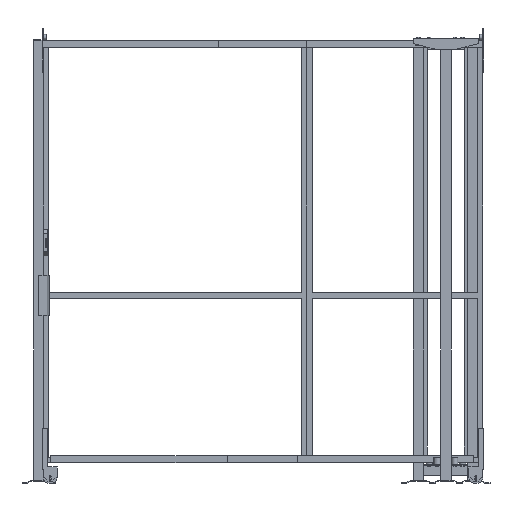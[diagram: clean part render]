
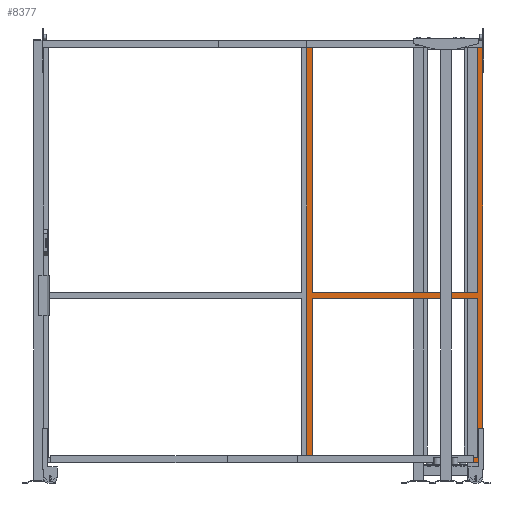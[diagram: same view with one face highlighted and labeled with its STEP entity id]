
A CAD part, front view. The second image highlights one B-rep face of the part: STEP entity #8377.
In plain terms, the highlighted planar face has unit normal (0, -1, 0).
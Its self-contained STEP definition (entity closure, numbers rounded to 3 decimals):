
#983=FACE_BOUND('',#1442,.T.);
#984=FACE_BOUND('',#1443,.T.);
#1030=FACE_OUTER_BOUND('',#1441,.T.);
#1441=EDGE_LOOP('',(#5981,#5982,#5983,#5984));
#1442=EDGE_LOOP('',(#5985,#5986,#5987,#5988));
#1443=EDGE_LOOP('',(#5989,#5990,#5991,#5992));
#1894=LINE('',#11662,#3024);
#1900=LINE('',#11674,#3030);
#1901=LINE('',#11677,#3031);
#1904=LINE('',#11684,#3034);
#1905=LINE('',#11686,#3035);
#1906=LINE('',#11688,#3036);
#1907=LINE('',#11689,#3037);
#1908=LINE('',#11691,#3038);
#1909=LINE('',#11693,#3039);
#1910=LINE('',#11694,#3040);
#1911=LINE('',#11696,#3041);
#1912=LINE('',#11697,#3042);
#3024=VECTOR('',#9398,1.);
#3030=VECTOR('',#9406,1.);
#3031=VECTOR('',#9409,1.);
#3034=VECTOR('',#9414,1.);
#3035=VECTOR('',#9415,1.);
#3036=VECTOR('',#9416,1.);
#3037=VECTOR('',#9417,1.);
#3038=VECTOR('',#9418,1.);
#3039=VECTOR('',#9419,1.);
#3040=VECTOR('',#9420,1.);
#3041=VECTOR('',#9421,1.);
#3042=VECTOR('',#9422,1.);
#4153=VERTEX_POINT('',#11658);
#4155=VERTEX_POINT('',#11661);
#4158=VERTEX_POINT('',#11668);
#4160=VERTEX_POINT('',#11672);
#4161=VERTEX_POINT('',#11676);
#4163=VERTEX_POINT('',#11682);
#4164=VERTEX_POINT('',#11683);
#4165=VERTEX_POINT('',#11685);
#4166=VERTEX_POINT('',#11687);
#4167=VERTEX_POINT('',#11690);
#4168=VERTEX_POINT('',#11692);
#4169=VERTEX_POINT('',#11695);
#4904=EDGE_CURVE('',#4153,#4155,#1894,.T.);
#4910=EDGE_CURVE('',#4160,#4158,#1900,.T.);
#4911=EDGE_CURVE('',#4161,#4158,#1901,.T.);
#4914=EDGE_CURVE('',#4163,#4164,#1904,.T.);
#4915=EDGE_CURVE('',#4165,#4164,#1905,.T.);
#4916=EDGE_CURVE('',#4166,#4165,#1906,.T.);
#4917=EDGE_CURVE('',#4163,#4166,#1907,.T.);
#4918=EDGE_CURVE('',#4153,#4167,#1908,.T.);
#4919=EDGE_CURVE('',#4167,#4168,#1909,.T.);
#4920=EDGE_CURVE('',#4168,#4155,#1910,.T.);
#4921=EDGE_CURVE('',#4160,#4169,#1911,.T.);
#4922=EDGE_CURVE('',#4169,#4161,#1912,.T.);
#5981=ORIENTED_EDGE('',*,*,#4914,.T.);
#5982=ORIENTED_EDGE('',*,*,#4915,.F.);
#5983=ORIENTED_EDGE('',*,*,#4916,.F.);
#5984=ORIENTED_EDGE('',*,*,#4917,.F.);
#5985=ORIENTED_EDGE('',*,*,#4918,.T.);
#5986=ORIENTED_EDGE('',*,*,#4919,.T.);
#5987=ORIENTED_EDGE('',*,*,#4920,.T.);
#5988=ORIENTED_EDGE('',*,*,#4904,.F.);
#5989=ORIENTED_EDGE('',*,*,#4910,.F.);
#5990=ORIENTED_EDGE('',*,*,#4921,.T.);
#5991=ORIENTED_EDGE('',*,*,#4922,.T.);
#5992=ORIENTED_EDGE('',*,*,#4911,.T.);
#8006=PLANE('',#8829);
#8377=ADVANCED_FACE('',(#1030,#983,#984),#8006,.F.);
#8829=AXIS2_PLACEMENT_3D('',#11681,#9412,#9413);
#9398=DIRECTION('',(1.,0.,0.));
#9406=DIRECTION('',(-1.,0.,0.));
#9409=DIRECTION('',(0.,0.,1.));
#9412=DIRECTION('center_axis',(0.,1.,0.));
#9413=DIRECTION('ref_axis',(0.,0.,1.));
#9414=DIRECTION('',(0.,0.,-1.));
#9415=DIRECTION('',(-1.,0.,0.));
#9416=DIRECTION('',(0.,0.,-1.));
#9417=DIRECTION('',(1.,0.,0.));
#9418=DIRECTION('',(0.,0.,1.));
#9419=DIRECTION('',(1.,0.,0.));
#9420=DIRECTION('',(0.,0.,-1.));
#9421=DIRECTION('',(0.,0.,-1.));
#9422=DIRECTION('',(-1.,0.,0.));
#11658=CARTESIAN_POINT('',(30.,0.,965.));
#11661=CARTESIAN_POINT('',(970.,0.,965.));
#11662=CARTESIAN_POINT('',(500.,0.,965.));
#11668=CARTESIAN_POINT('',(30.,0.,935.));
#11672=CARTESIAN_POINT('',(970.,0.,935.));
#11674=CARTESIAN_POINT('',(500.,0.,935.));
#11676=CARTESIAN_POINT('',(30.,0.,30.));
#11677=CARTESIAN_POINT('',(30.,0.,1200.));
#11681=CARTESIAN_POINT('Origin',(500.,0.,1200.));
#11682=CARTESIAN_POINT('',(0.,0.,2400.));
#11683=CARTESIAN_POINT('',(0.,0.,0.));
#11684=CARTESIAN_POINT('',(0.,0.,1200.));
#11685=CARTESIAN_POINT('',(1000.,0.,0.));
#11686=CARTESIAN_POINT('',(500.,0.,0.));
#11687=CARTESIAN_POINT('',(1000.,0.,2400.));
#11688=CARTESIAN_POINT('',(1000.,0.,1200.));
#11689=CARTESIAN_POINT('',(500.,0.,2400.));
#11690=CARTESIAN_POINT('',(30.,0.,2370.));
#11691=CARTESIAN_POINT('',(30.,0.,1200.));
#11692=CARTESIAN_POINT('',(970.,0.,2370.));
#11693=CARTESIAN_POINT('',(500.,0.,2370.));
#11694=CARTESIAN_POINT('',(970.,0.,1200.));
#11695=CARTESIAN_POINT('',(970.,0.,30.));
#11696=CARTESIAN_POINT('',(970.,0.,1200.));
#11697=CARTESIAN_POINT('',(500.,0.,30.));
